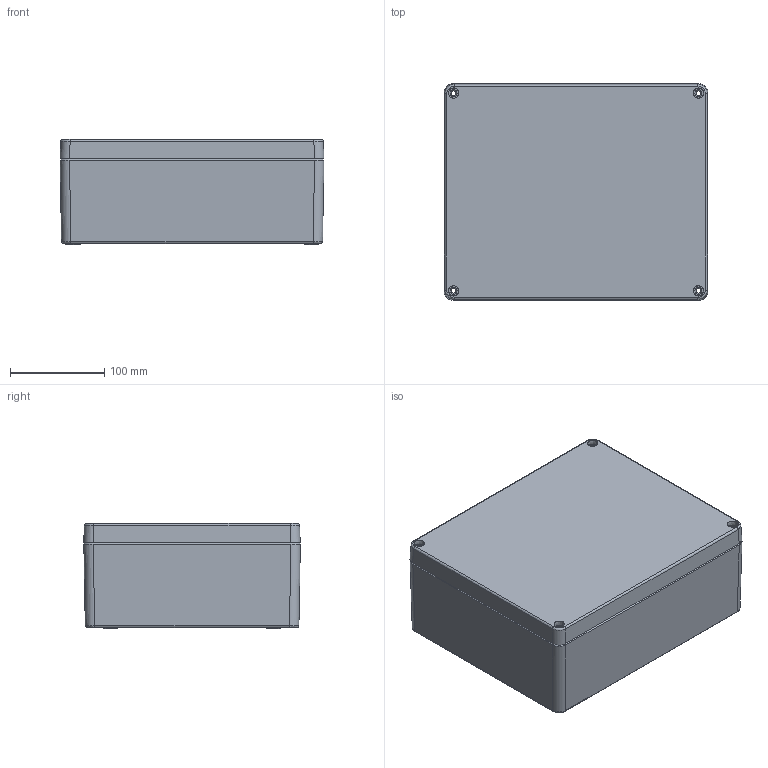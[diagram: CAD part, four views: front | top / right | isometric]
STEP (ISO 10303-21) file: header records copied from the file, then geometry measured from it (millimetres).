
FILE_DESCRIPTION (( 'STEP AP203' ), '1' );
FILE_NAME ('ALU ASSY 280230110.STEP', '2024-08-27T09:37:18', ( '' ), ( '' ), 'SwSTEP 2.0', 'SolidWorks 2018', '' );
FILE_SCHEMA (( 'CONFIG_CONTROL_DESIGN' ));
Length unit declared in the file: millimetre
Products named in the file (3): ALU LID 280230110; ALU ASSY 280230110; ALU BASE 280230110
Assembly tree (2 placements, depth 2):
  ALU ASSY 280230110
    ALU BASE 280230110
    ALU LID 280230110
Bounding box: 280.36 x 230.1 x 111.65 mm (x, y, z)
Volume: 1153840.9 mm3; surface area: 495206.4 mm2
Topology: 3 solids, 3 shells, 1575 faces, 4187 edges, 2717 vertices
Faces by surface type: plane 1041, cylinder 268, bspline 190, cone 42, torus 34
Entity records: 67864 total; most frequent: CARTESIAN_POINT 29840, ORIENTED_EDGE 8346, DIRECTION 6866, EDGE_CURVE 4173, VECTOR 3092, LINE 3092, VERTEX_POINT 2717, AXIS2_PLACEMENT_3D 1887
